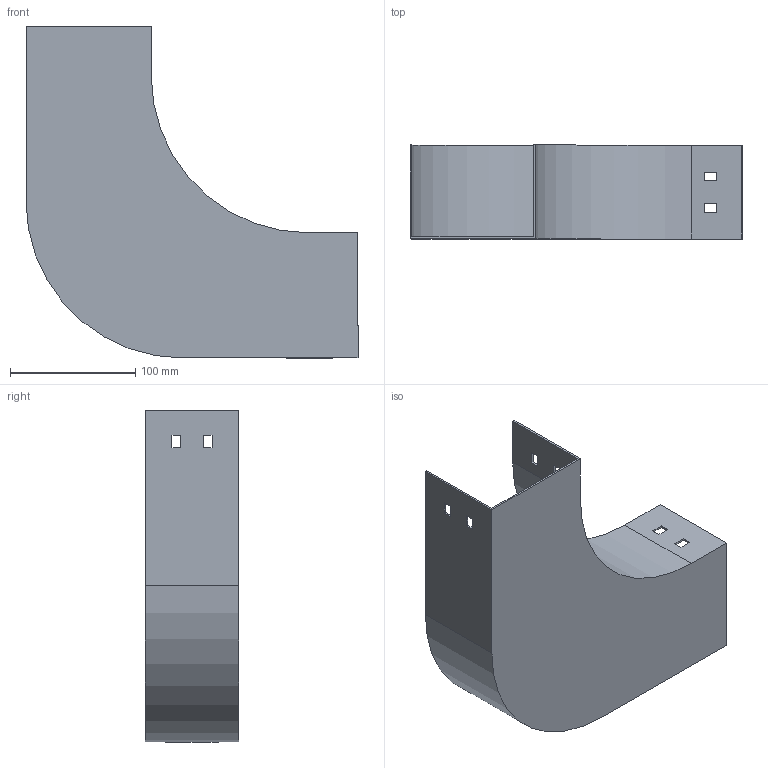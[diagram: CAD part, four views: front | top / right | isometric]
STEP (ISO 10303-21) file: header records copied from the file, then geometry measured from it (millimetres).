
FILE_DESCRIPTION (( 'STEP AP214' ), '1' );
FILE_NAME ('P9_107.step', '2025-07-16T09:20:18', ( '' ), ( '' ), 'SwSTEP 2.0', 'SolidWorks 2023', '' );
FILE_SCHEMA (( 'AUTOMOTIVE_DESIGN' ));
Length unit declared in the file: millimetre
Products named in the file (1): P9_107
Bounding box: 265 x 75 x 265 mm (x, y, z)
Volume: 146645.1 mm3; surface area: 197804.8 mm2
Topology: 1 solids, 1 shells, 50 faces, 144 edges, 96 vertices
Faces by surface type: plane 46, cylinder 4
Entity records: 1671 total; most frequent: CARTESIAN_POINT 291, ORIENTED_EDGE 288, DIRECTION 254, EDGE_CURVE 144, VECTOR 136, LINE 136, VERTEX_POINT 96, EDGE_LOOP 66
